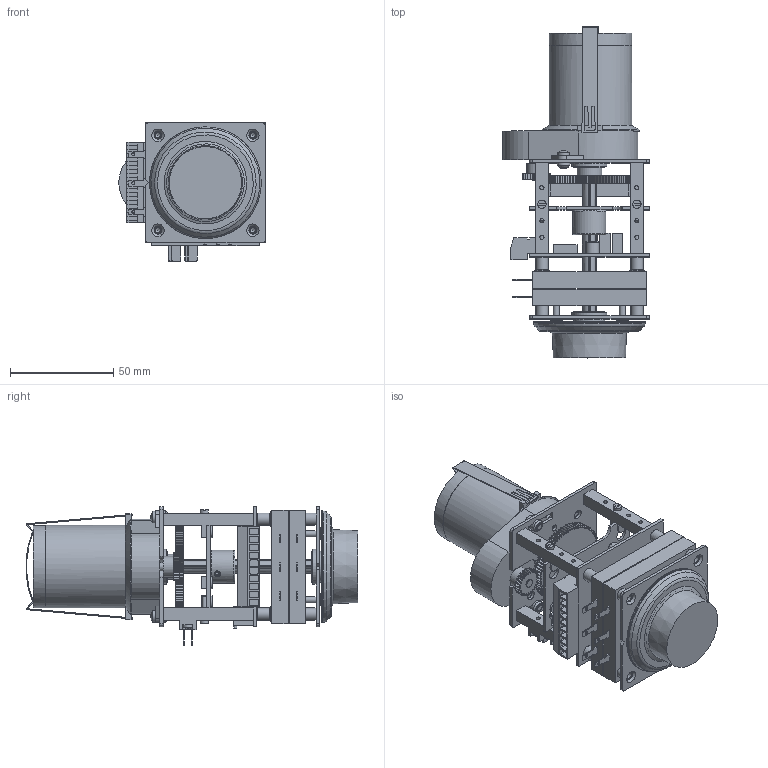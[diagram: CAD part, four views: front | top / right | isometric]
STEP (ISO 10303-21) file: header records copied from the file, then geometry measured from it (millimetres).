
FILE_DESCRIPTION(/* description */ (''),/* implementation_level */ '2;1');
FILE_NAME(/* name */ 'C:\Users\CAD-4\Desktop\MR267_Front_Panel.stp',/* time_stamp */ '2019-10-08T10:38:46+02:00',/* author */ ('CAD-4'),/* organization */ (''),/* preprocessor_version */ 'ST-DEVELOPER v16.13',/* originating_system */ 'Autodesk Inventor 2018',/* authorisation */ '');
FILE_SCHEMA (('AUTOMOTIVE_DESIGN { 1 0 10303 214 3 1 1 }'));
Products named in the file (1): Bauteil2
Bounding box: 70.98 x 160.8 x 67 mm (x, y, z)
Volume: 198087.2 mm3; surface area: 85864.1 mm2
Topology: 1 solids, 15 shells, 2974 faces, 8472 edges, 5597 vertices
Faces by surface type: plane 1787, cylinder 1096, cone 60, torus 23, sphere 8
Full cylindrical faces by diameter (mm): 1.5 x9, 1.567 x4, 2 x4, 2.013 x20, 2.05 x2, 2.459 x9, 2.5 x8, 2.6 x2, 2.8 x10, 3 x10, 3.2 x4, 3.5 x4, 3.8 x8, 3.9 x4, 3.95 x4, 4 x6, 4.5 x12, 5.6 x6, 5.8 x4, 6 x13, 6.4 x1, 6.5 x1, 7.5 x8, 7.8 x1, 8 x3, 10 x2, 12 x2, 15 x5, 16 x1, 17 x2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
Entity records: 99974 total; most frequent: CARTESIAN_POINT 17988, DIRECTION 17136, ORIENTED_EDGE 16184, EDGE_CURVE 8091, AXIS2_PLACEMENT_3D 6160, VERTEX_POINT 5473, LINE 4816, VECTOR 4816
